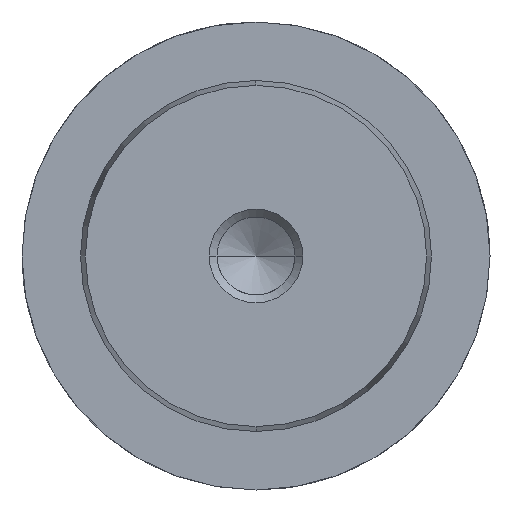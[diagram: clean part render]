
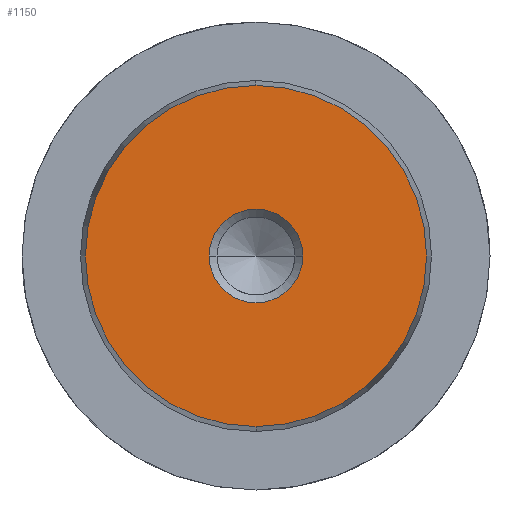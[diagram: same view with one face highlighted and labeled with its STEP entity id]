
A CAD part, left-side view. The second image highlights one B-rep face of the part: STEP entity #1150.
In plain terms, the highlighted planar face has unit normal (-1, 0, 0).
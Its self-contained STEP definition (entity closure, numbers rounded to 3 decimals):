
#1064=CARTESIAN_POINT('Vertex',(0.,0.,-14.578)) ;
#1067=CARTESIAN_POINT('Axis2P3D Location',(0.,0.,0.)) ;
#1071=CARTESIAN_POINT('Vertex',(0.,14.578,0.)) ;
#1074=CARTESIAN_POINT('Axis2P3D Location',(0.,0.,0.)) ;
#1078=CARTESIAN_POINT('Vertex',(0.,0.,14.578)) ;
#1100=CARTESIAN_POINT('Axis2P3D Location',(0.,0.,0.)) ;
#1104=CARTESIAN_POINT('Vertex',(0.,-14.578,0.)) ;
#1107=CARTESIAN_POINT('Axis2P3D Location',(0.,0.,0.)) ;
#1121=CARTESIAN_POINT('Axis2P3D Location',(0.,0.,0.)) ;
#1132=CARTESIAN_POINT('Axis2P3D Location',(0.,0.,0.)) ;
#1136=CARTESIAN_POINT('Vertex',(0.,4.,0.)) ;
#1138=CARTESIAN_POINT('Vertex',(0.,-4.,0.)) ;
#1141=CARTESIAN_POINT('Axis2P3D Location',(0.,0.,0.)) ;
#1068=DIRECTION('Axis2P3D Direction',(1.,0.,-0.)) ;
#1075=DIRECTION('Axis2P3D Direction',(1.,0.,-0.)) ;
#1101=DIRECTION('Axis2P3D Direction',(1.,0.,-0.)) ;
#1108=DIRECTION('Axis2P3D Direction',(1.,0.,-0.)) ;
#1122=DIRECTION('Axis2P3D Direction',(1.,0.,-0.)) ;
#1123=DIRECTION('Axis2P3D XDirection',(-0.,0.,-1.)) ;
#1133=DIRECTION('Axis2P3D Direction',(1.,0.,-0.)) ;
#1142=DIRECTION('Axis2P3D Direction',(1.,0.,-0.)) ;
#1069=AXIS2_PLACEMENT_3D('Circle Axis2P3D',#1067,#1068,$) ;
#1076=AXIS2_PLACEMENT_3D('Circle Axis2P3D',#1074,#1075,$) ;
#1102=AXIS2_PLACEMENT_3D('Circle Axis2P3D',#1100,#1101,$) ;
#1109=AXIS2_PLACEMENT_3D('Circle Axis2P3D',#1107,#1108,$) ;
#1124=AXIS2_PLACEMENT_3D('Plane Axis2P3D',#1121,#1122,#1123) ;
#1134=AXIS2_PLACEMENT_3D('Circle Axis2P3D',#1132,#1133,$) ;
#1143=AXIS2_PLACEMENT_3D('Circle Axis2P3D',#1141,#1142,$) ;
#1127=ORIENTED_EDGE('',*,*,#1073,.F.) ;
#1128=ORIENTED_EDGE('',*,*,#1111,.F.) ;
#1129=ORIENTED_EDGE('',*,*,#1106,.F.) ;
#1130=ORIENTED_EDGE('',*,*,#1080,.F.) ;
#1147=ORIENTED_EDGE('',*,*,#1140,.T.) ;
#1148=ORIENTED_EDGE('',*,*,#1145,.T.) ;
#1149=FACE_BOUND('',#1146,.T.) ;
#1150=ADVANCED_FACE('718-30x125',(#1131,#1149),#1125,.F.) ;
#1070=CIRCLE('generated circle',#1069,14.578) ;
#1077=CIRCLE('generated circle',#1076,14.578) ;
#1103=CIRCLE('generated circle',#1102,14.578) ;
#1110=CIRCLE('generated circle',#1109,14.578) ;
#1135=CIRCLE('generated circle',#1134,4.) ;
#1144=CIRCLE('generated circle',#1143,4.) ;
#1073=EDGE_CURVE('',#1065,#1072,#1070,.T.) ;
#1080=EDGE_CURVE('',#1072,#1079,#1077,.T.) ;
#1106=EDGE_CURVE('',#1079,#1105,#1103,.T.) ;
#1111=EDGE_CURVE('',#1105,#1065,#1110,.T.) ;
#1140=EDGE_CURVE('',#1137,#1139,#1135,.T.) ;
#1145=EDGE_CURVE('',#1139,#1137,#1144,.T.) ;
#1126=EDGE_LOOP('',(#1127,#1128,#1129,#1130)) ;
#1146=EDGE_LOOP('',(#1147,#1148)) ;
#1131=FACE_OUTER_BOUND('',#1126,.T.) ;
#1125=PLANE('Plane',#1124) ;
#1065=VERTEX_POINT('',#1064) ;
#1072=VERTEX_POINT('',#1071) ;
#1079=VERTEX_POINT('',#1078) ;
#1105=VERTEX_POINT('',#1104) ;
#1137=VERTEX_POINT('',#1136) ;
#1139=VERTEX_POINT('',#1138) ;
